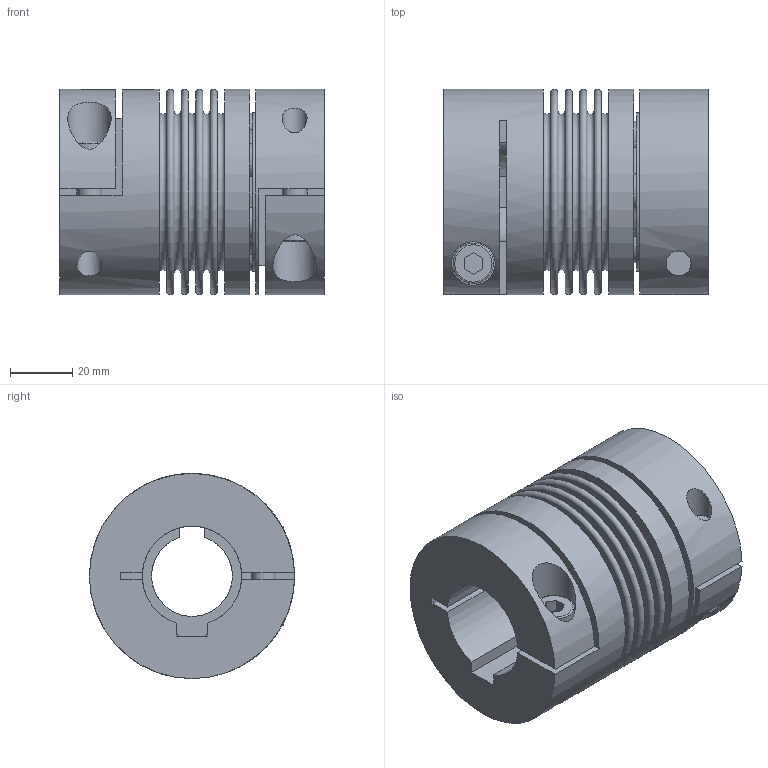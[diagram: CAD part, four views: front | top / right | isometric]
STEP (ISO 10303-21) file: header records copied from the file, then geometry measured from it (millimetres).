
FILE_DESCRIPTION(/* description */ ('STEP AP214'),/* implementation_level */ '2;1');
FILE_NAME(/* name */ 'C:\Diequa Files\DieQua Coupling\BCB\STP\BCB.60.85.#.#.stp',/* time_stamp */ '2018-11-26T10:39:30-06:00',/* author */ ('DiequaCAD'),/* organization */ (''),/* preprocessor_version */ 'ST-DEVELOPER v17.2',/* originating_system */ 'Autodesk Inventor 2019',/* authorisation */ ' ');
FILE_SCHEMA (('AUTOMOTIVE_DESIGN { 1 0 10303 214 3 1 1 }'));
Length unit declared in the file: millimetre
Products named in the file (3): BK5_60_85_32_PFN_26_PFN_78; 2018_11_09__17-55-04-299; 2018_11_09__17-55-04-299_1
Assembly tree (2 placements, depth 2):
  BK5_60_85_32_PFN_26_PFN_78
    2018_11_09__17-55-04-299
    2018_11_09__17-55-04-299_1
Bounding box: 85 x 66 x 66 mm (x, y, z)
Volume: 185193.9 mm3; surface area: 63675.6 mm2
Topology: 2 solids, 2 shells, 124 faces, 312 edges, 212 vertices
Faces by surface type: plane 67, cone 24, cylinder 22, torus 11
Full cylindrical faces by diameter (mm): 8 x4, 13 x2, 14 x2, 48 x1, 51 x1, 58 x1, 66 x3
Entity records: 4160 total; most frequent: CARTESIAN_POINT 923, DIRECTION 699, ORIENTED_EDGE 624, EDGE_CURVE 312, AXIS2_PLACEMENT_3D 288, VERTEX_POINT 212, CIRCLE 159, EDGE_LOOP 152
